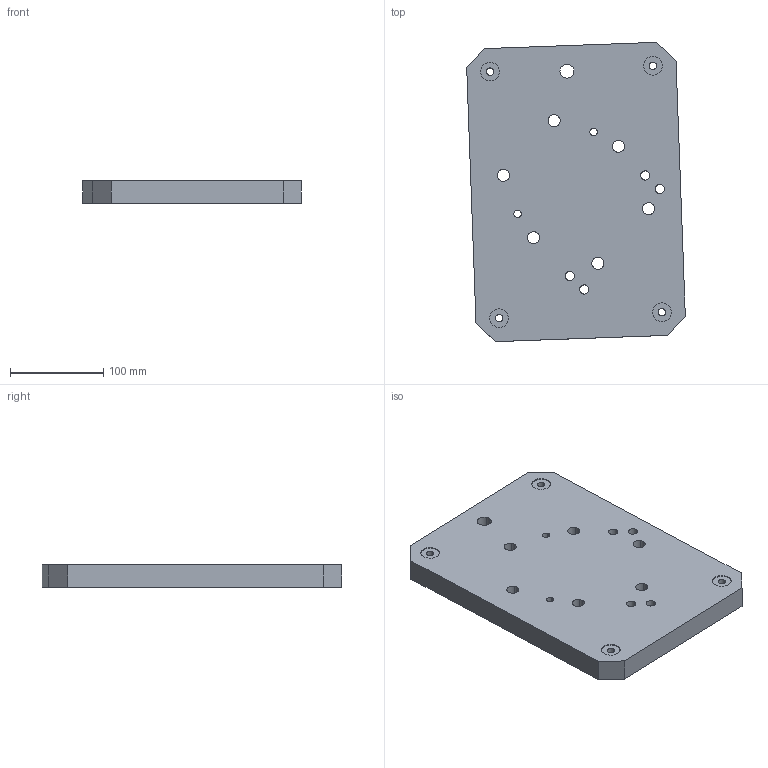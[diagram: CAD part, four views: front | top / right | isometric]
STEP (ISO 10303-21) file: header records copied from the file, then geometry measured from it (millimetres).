
FILE_DESCRIPTION(('STEP AP214'),'1');
FILE_NAME('EGT283_1707365_PLATTE.CATPart.stp','2015-09-14T13:16:28',('3D-Tool'),(' '),'Spatial InterOp 3D',' ',' ');
FILE_SCHEMA(('automotive_design'));
Length unit declared in the file: millimetre
Products named in the file (1): EGT283_1707365_PLATTE|EGT054_FLANSCHPLATTE_SW80_SENKR|Bohrbearbeitung
Bounding box: 234.89 x 321.54 x 24 mm (x, y, z)
Volume: 1642611.8 mm3; surface area: 175565.4 mm2
Topology: 1 solids, 1 shells, 98 faces, 276 edges, 184 vertices
Faces by surface type: cylinder 84, plane 14
Entity records: 4145 total; most frequent: DIRECTION 642, CARTESIAN_POINT 559, ORIENTED_EDGE 552, EDGE_CURVE 276, AXIS2_PLACEMENT_3D 267, VERTEX_POINT 184, CIRCLE 168, EDGE_LOOP 136
